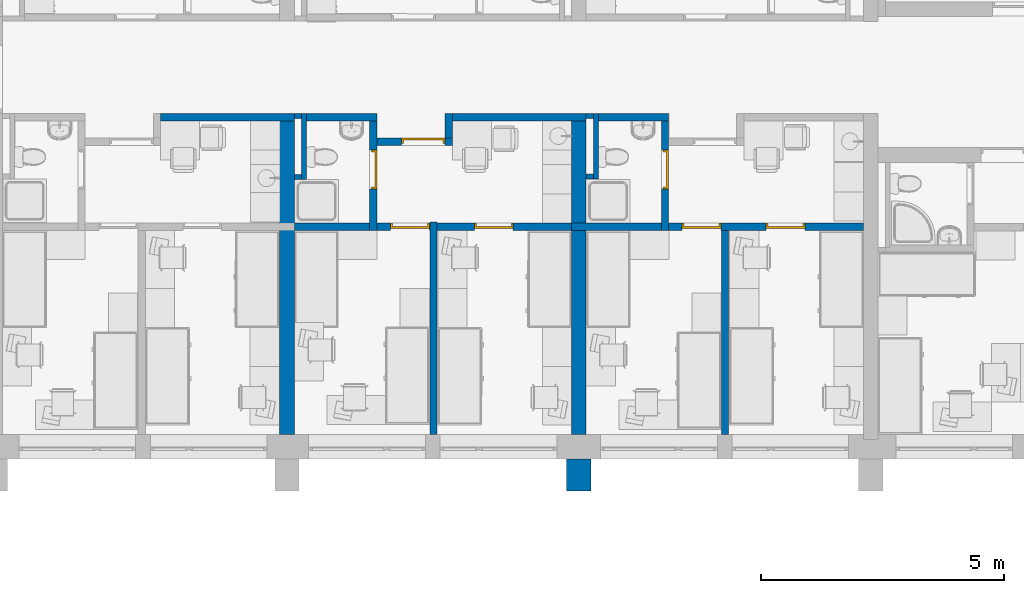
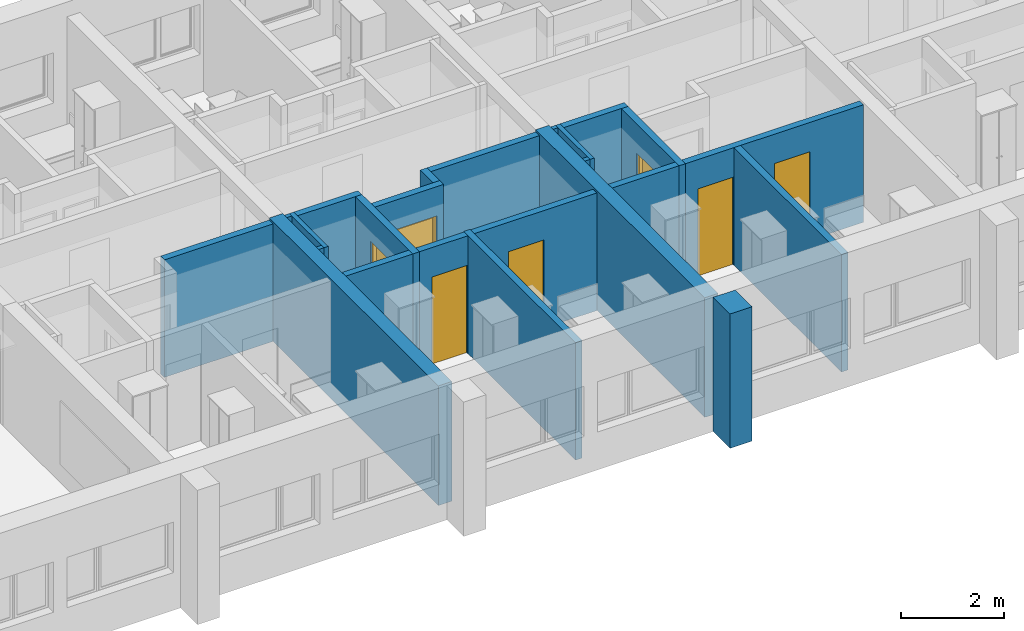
# One storey, part 15 of 165: 21 walls, 7 doors, 7 openings.
"""IFC2X3 building model written with IfcOpenShell, lengths in millimetres."""

from ifc_helpers import new_model, entity, si_unit, converted_unit, money_unit, direction, frame, origin_with_axes, place, context, subcontext, project, spatial, polyline, outline, extrude, faceted_brep, source, transform, mapped, material, material_list, layer, layer_set, layer_usage, type_object, element, fill, save


model = new_model("IFC2X3")

# Units and contexts
model_context = context("Model", 3, precision=1e-05, world=origin_with_axes(), true_north=direction((0.0, 1.0)))
body_context = subcontext(model_context, "Body", "Model", "MODEL_VIEW")
ifc_project = project(units=[si_unit("LENGTHUNIT", "METRE", prefix="MILLI"), si_unit("AREAUNIT", "SQUARE_METRE"), si_unit("VOLUMEUNIT", "CUBIC_METRE"), converted_unit("PLANEANGLEUNIT", "DEGREE", entity("IfcPlaneAngleMeasure", 0.0174532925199), si_unit("PLANEANGLEUNIT", "RADIAN"), dimensions=[0, 0, 0, 0, 0, 0, 0]), si_unit("SOLIDANGLEUNIT", "STERADIAN"), money_unit("USD"), converted_unit("TIMEUNIT", "Year", entity("IfcTimeMeasure", 31556926.0), si_unit("TIMEUNIT", "SECOND"), dimensions=[0, 0, 0, 0, 0, 0, 0]), si_unit("MASSUNIT", "GRAM"), si_unit("THERMODYNAMICTEMPERATUREUNIT", "DEGREE_CELSIUS"), si_unit("LUMINOUSINTENSITYUNIT", "LUMEN")], contexts=[model_context])

# Site, building, storey
site_placement = place(None, origin_with_axes())
site = spatial("IfcSite", under=ifc_project, at=site_placement, Name="Site", CompositionType="ELEMENT")
building_placement = place(site_placement, origin_with_axes())
building = spatial("IfcBuilding", under=site, at=building_placement, Name="Building", CompositionType="ELEMENT")
storey_placement = place(building_placement, frame((0.0, 0.0, 6300.0), z_axis=(0.0, 0.0, 1.0), x_axis=(1.0, 0.0, 0.0)))
storey = spatial("IfcBuildingStorey", under=building, at=storey_placement, Name="4KORRUS", CompositionType="ELEMENT", Elevation=6300.0)

# Wall
ifc_material_1 = material(Name="Olemasolevad seinad tellis, uus viimistlus")
ifc_layer_1 = layer(ifc_material_1, 500.0, ventilated="UNKNOWN")
ifc_layer_set_1 = layer_set([ifc_layer_1], Name="Olemasolevad seinad tellis, uus viimistlus 500")
ifc_layer_usage_1 = layer_usage(ifc_layer_set_1, "AXIS2", "POSITIVE", -100.0)
wall_type_1 = type_object("IfcWallType", Name="Olemasolevad seinad tellis, uus viimistlus 500", PredefinedType="NOTDEFINED")
wall_1_placement = place(storey_placement, frame((6009.70329669, -20796.6419407, 0.0), z_axis=(0.0, 0.0, 1.0), x_axis=(0.0, 1.0, 0.0)))
element("IfcWallStandardCase", 1, at=wall_1_placement, inside=storey, type_object=wall_type_1, material=ifc_layer_usage_1, Name="VS1", ObjectType="VS1", context=body_context, shape_type="SweptSolid", body=[
    extrude(outline(polyline([(0.0, -100.0), (657.402041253, -100.0), (657.402041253, 400.0), (0.0, 400.0), (0.0, -100.0)])), origin_with_axes(), (0.0, 0.0, 1.0), 3200.0),
])

# Wall, opening, door
ifc_material_2 = material(Name="UmbKipsplaat")
ifc_layer_2 = layer(ifc_material_2, 13.0, ventilated="UNKNOWN")
ifc_layer_3 = layer(ifc_material_2, 13.0, ventilated="UNKNOWN")
ifc_material_3 = material(Name="SOOJUSTUS MINERAALVILL")
ifc_layer_4 = layer(ifc_material_3, 98.0, ventilated="UNKNOWN")
ifc_layer_5 = layer(ifc_material_2, 13.0, ventilated="UNKNOWN")
ifc_layer_6 = layer(ifc_material_2, 13.0, ventilated="UNKNOWN")
ifc_layer_set_2 = layer_set([ifc_layer_2, ifc_layer_3, ifc_layer_4, ifc_layer_5, ifc_layer_6], Name="kipssein150")
ifc_layer_usage_2 = layer_usage(ifc_layer_set_2, "AXIS2", "POSITIVE", -150.0)
wall_type_2 = type_object("IfcWallType", Name="kipssein150 150", PredefinedType="NOTDEFINED")
wall_2_placement = place(storey_placement, frame((1709.89667774, -13539.5830815, 0.0), z_axis=(0.0, 0.0, 1.0), x_axis=(1.0, 0.0, 0.0)))
wall_2 = element("IfcWallStandardCase", 2, at=wall_2_placement, inside=storey, type_object=wall_type_2, material=ifc_layer_usage_2, Name="SS1", ObjectType="SS1", context=body_context, shape_type="SweptSolid", body=[
    extrude(outline(polyline([(0.0, -150.0), (1549.66067938, -150.0), (1549.66067938, 0.0), (0.0, 0.0), (0.0, -150.0)])), origin_with_axes(), (0.0, 0.0, 1.0), 2800.0),
])
opening_1_placement = place(wall_2_placement, frame((949.660679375, 0.0, 0.0), z_axis=(0.0, 0.0, 1.0), x_axis=(1.0, 0.0, 0.0)))
opening_1 = element("IfcOpeningElement", 3, at=opening_1_placement, cuts=wall_2, Name="SU2-5", context=body_context, shape_type="SweptSolid", body=[
    extrude(outline(polyline([(-450.0, -2100.0), (450.0, -2100.0), (450.0, 0.0), (-450.0, 0.0), (-450.0, -2100.0)])), frame((0.0, -150.0, 0.0), z_axis=(0.0, 1.0, 0.0), x_axis=(1.0, 0.0, 0.0)), (0.0, 0.0, 1.0), 450.0),
])
ifc_material_4 = material(Name="Background")
ifc_material_list = material_list([ifc_material_4])
door_style_1 = type_object("IfcDoorStyle", Name="Door 19", ConstructionType="NOTDEFINED", OperationType="SINGLE_SWING_RIGHT", ParameterTakesPrecedence=False, Sizeable=False)
shared_shape_1 = source(origin_with_axes(), body_context, "Body", "Brep", [
    faceted_brep([(-410.0, -40.0, 0.0), (-410.0, -40.0, 2060.0), (-410.0, -115.0, 2060.0), (-410.0, -115.0, 0.0), (-422.0, -40.0, 2060.0), (-422.0, -40.0, 0.0), (-422.0, 0.0, 2060.0), (-450.0, 0.0, 2060.0), (-450.0, -115.0, 2060.0), (-450.0, -115.0, 0.0), (-450.0, 0.0, 0.0), (-422.0, 0.0, 0.0)], [[[0, 1, 2, 3]], [[4, 1, 0, 5]], [[4, 6, 7, 8, 2, 1]], [[2, 8, 9, 3]], [[5, 0, 3, 9, 10, 11]], [[6, 4, 5, 11]], [[6, 11, 10, 7]], [[9, 8, 7, 10]]]),
    faceted_brep([(422.0, -40.0, 2060.0), (410.0, -40.0, 2060.0), (410.0, -115.0, 2060.0), (450.0, -115.0, 2060.0), (450.0, 0.0, 2060.0), (422.0, 0.0, 2060.0), (422.0, -40.0, 0.0), (410.0, -40.0, 0.0), (410.0, -115.0, 0.0), (450.0, -115.0, 0.0), (450.0, 0.0, 0.0), (422.0, 0.0, 0.0)], [[[0, 1, 2, 3, 4, 5]], [[1, 0, 6, 7]], [[1, 7, 8, 2]], [[2, 8, 9, 3]], [[3, 9, 10, 4]], [[11, 5, 4, 10]], [[0, 5, 11, 6]], [[6, 11, 10, 9, 8, 7]]]),
    faceted_brep([(-422.0, 0.0, 2072.0), (-422.0, 0.0, 2060.0), (-450.0, 0.0, 2060.0), (-450.0, 0.0, 2100.0), (450.0, 0.0, 2100.0), (450.0, 0.0, 2060.0), (422.0, 0.0, 2060.0), (422.0, 0.0, 2072.0), (-422.0, -40.0, 2072.0), (-422.0, -40.0, 2060.0), (-410.0, -40.0, 2060.0), (-410.0, -115.0, 2060.0), (-450.0, -115.0, 2060.0), (-450.0, -115.0, 2100.0), (450.0, -115.0, 2100.0), (450.0, -115.0, 2060.0), (422.0, -40.0, 2060.0), (410.0, -115.0, 2060.0), (410.0, -40.0, 2060.0), (422.0, -40.0, 2072.0)], [[[0, 1, 2, 3, 4, 5, 6, 7]], [[1, 0, 8, 9]], [[9, 10, 11, 12, 2, 1]], [[12, 13, 3, 2]], [[13, 14, 4, 3]], [[14, 15, 5, 4]], [[16, 6, 5, 15, 17, 18]], [[7, 6, 16, 19]], [[0, 7, 19, 8]], [[16, 18, 10, 9, 8, 19]], [[10, 18, 17, 11]], [[15, 14, 13, 12, 11, 17]]]),
    faceted_brep([(422.0, 0.0, 0.0), (422.0, -40.0, 0.0), (-422.0, -40.0, 0.0), (-422.0, 0.0, 0.0), (422.0, 0.0, 2072.0), (422.0, -40.0, 2072.0), (-422.0, -40.0, 2072.0), (-422.0, 0.0, 2072.0)], [[[0, 1, 2, 3]], [[4, 5, 1, 0]], [[1, 5, 6, 2]], [[3, 2, 6, 7]], [[0, 3, 7, 4]], [[7, 6, 5, 4]]]),
])
door_1_placement = place(opening_1_placement, frame((-450.0, 0.0, 0.0), z_axis=(0.0, 0.0, 1.0), x_axis=(1.0, 0.0, 0.0)))
door_1 = element("IfcDoor", 4, at=door_1_placement, inside=storey, type_object=door_style_1, material=ifc_material_list, Name="SU2-5", ObjectType="Korteri välisuks", OverallHeight=2100.0, OverallWidth=900.0, context=body_context, shape_type="MappedRepresentation", body=[
    mapped(shared_shape_1, transform((450.0, 0.0, 0.0))),
])
fill(opening_1, door_1)

# Wall
ifc_layer_usage_3 = layer_usage(ifc_layer_set_2, "AXIS2", "POSITIVE", -150.0)
wall_3_placement = place(storey_placement, frame((-2740.44264288, -13039.5012458, 0.0), z_axis=(0.0, 0.0, 1.0), x_axis=(1.0, 0.0, 0.0)))
element("IfcWallStandardCase", 5, at=wall_3_placement, inside=storey, type_object=wall_type_2, material=ifc_layer_usage_3, Name="SS1", ObjectType="SS1", context=body_context, shape_type="SweptSolid", body=[
    extrude(outline(polyline([(0.0, -150.0), (2750.14593957, -150.0), (2750.14593957, 0.0), (0.0, 0.0), (0.0, -150.0)])), origin_with_axes(), (0.0, 0.0, 1.0), 2800.0),
])

# Wall, opening, door
ifc_layer_usage_4 = layer_usage(ifc_layer_set_2, "AXIS2", "POSITIVE", 0.0)
wall_4_placement = place(storey_placement, frame((7703.60828238, -15439.2398994, 0.0), z_axis=(0.0, 0.0, 1.0), x_axis=(0.0, 1.0, 0.0)))
wall_4 = element("IfcWallStandardCase", 6, at=wall_4_placement, inside=storey, type_object=wall_type_2, material=ifc_layer_usage_4, Name="SS1", ObjectType="SS1", context=body_context, shape_type="SweptSolid", body=[
    extrude(outline(polyline([(0.0, 0.0), (2399.86932682, 0.0), (2399.86932682, 150.0), (0.0, 150.0), (0.0, 0.0)])), origin_with_axes(), (0.0, 0.0, 1.0), 2800.0),
])
opening_2_placement = place(wall_4_placement, frame((1249.78749111, 0.0, 0.0), z_axis=(0.0, 0.0, 1.0), x_axis=(1.0, 0.0, 0.0)))
opening_2 = element("IfcOpeningElement", 7, at=opening_2_placement, cuts=wall_4, Name="SU3-3", context=body_context, shape_type="SweptSolid", body=[
    extrude(outline(polyline([(-400.0, -2100.0), (400.0, -2100.0), (400.0, 0.0), (-400.0, 0.0), (-400.0, -2100.0)])), frame((0.0, 150.0, 0.0), z_axis=(0.0, 1.0, 0.0), x_axis=(1.0, 0.0, 0.0)), (0.0, 0.0, -1.0), 450.0),
])
door_style_2 = type_object("IfcDoorStyle", Name="Door 19", ConstructionType="NOTDEFINED", OperationType="SINGLE_SWING_LEFT", ParameterTakesPrecedence=False, Sizeable=False)
shared_shape_2 = source(origin_with_axes(), body_context, "Body", "Brep", [
    faceted_brep([(360.0, -40.0, 0.0), (360.0, -115.0, 0.0), (360.0, -115.0, 2060.0), (360.0, -40.0, 2060.0), (372.0, -40.0, 0.0), (372.0, 0.0, 0.0), (400.0, 0.0, 0.0), (400.0, -115.0, 0.0), (400.0, -115.0, 2060.0), (372.0, -40.0, 2060.0), (400.0, 0.0, 2060.0), (372.0, 0.0, 2060.0)], [[[0, 1, 2, 3]], [[4, 5, 6, 7, 1, 0]], [[2, 1, 7, 8]], [[9, 3, 2, 8, 10, 11]], [[9, 4, 0, 3]], [[11, 5, 4, 9]], [[11, 10, 6, 5]], [[7, 6, 10, 8]]]),
    faceted_brep([(-372.0, -40.0, 2060.0), (-372.0, 0.0, 2060.0), (-400.0, 0.0, 2060.0), (-400.0, -115.0, 2060.0), (-360.0, -115.0, 2060.0), (-360.0, -40.0, 2060.0), (-372.0, -40.0, 0.0), (-372.0, 0.0, 0.0), (-400.0, 0.0, 0.0), (-400.0, -115.0, 0.0), (-360.0, -115.0, 0.0), (-360.0, -40.0, 0.0)], [[[0, 1, 2, 3, 4, 5]], [[0, 6, 7, 1]], [[7, 8, 2, 1]], [[3, 2, 8, 9]], [[4, 3, 9, 10]], [[5, 4, 10, 11]], [[5, 11, 6, 0]], [[6, 11, 10, 9, 8, 7]]]),
    faceted_brep([(372.0, 0.0, 2072.0), (-372.0, 0.0, 2072.0), (-372.0, 0.0, 2060.0), (-400.0, 0.0, 2060.0), (-400.0, 0.0, 2100.0), (400.0, 0.0, 2100.0), (400.0, 0.0, 2060.0), (372.0, 0.0, 2060.0), (372.0, -40.0, 2072.0), (-372.0, -40.0, 2072.0), (-372.0, -40.0, 2060.0), (-360.0, -40.0, 2060.0), (-360.0, -115.0, 2060.0), (-400.0, -115.0, 2060.0), (-400.0, -115.0, 2100.0), (400.0, -115.0, 2100.0), (400.0, -115.0, 2060.0), (372.0, -40.0, 2060.0), (360.0, -115.0, 2060.0), (360.0, -40.0, 2060.0)], [[[0, 1, 2, 3, 4, 5, 6, 7]], [[0, 8, 9, 1]], [[1, 9, 10, 2]], [[10, 11, 12, 13, 3, 2]], [[14, 4, 3, 13]], [[15, 5, 4, 14]], [[16, 6, 5, 15]], [[17, 7, 6, 16, 18, 19]], [[7, 17, 8, 0]], [[10, 9, 8, 17, 19, 11]], [[19, 18, 12, 11]], [[13, 12, 18, 16, 15, 14]]]),
    faceted_brep([(-372.0, 0.0, 0.0), (372.0, 0.0, 0.0), (372.0, -40.0, 0.0), (-372.0, -40.0, 0.0), (-372.0, 0.0, 2072.0), (372.0, 0.0, 2072.0), (372.0, -40.0, 2072.0), (-372.0, -40.0, 2072.0)], [[[0, 1, 2, 3]], [[0, 4, 5, 1]], [[1, 5, 6, 2]], [[3, 2, 6, 7]], [[4, 0, 3, 7]], [[5, 4, 7, 6]]]),
])
door_2_placement = place(opening_2_placement, frame((400.0, 0.0, 0.0), z_axis=(0.0, 0.0, 1.0), x_axis=(-1.0, 0.0, 0.0)))
door_2 = element("IfcDoor", 8, at=door_2_placement, inside=storey, type_object=door_style_2, material=ifc_material_list, Name="SU3-3", ObjectType="WC-uks", OverallHeight=2100.0, OverallWidth=800.0, context=body_context, shape_type="MappedRepresentation", body=[
    mapped(shared_shape_2, transform((400.0, 0.0, 0.0))),
])
fill(opening_2, door_2)

# Walls
ifc_layer_usage_5 = layer_usage(ifc_layer_set_2, "AXIS2", "POSITIVE", 0.0)
wall_5_placement = place(storey_placement, frame((7703.60828238, -13039.3705726, 0.0), z_axis=(0.0, 0.0, 1.0), x_axis=(-1.0, 0.0, 0.0)))
element("IfcWallStandardCase", 9, at=wall_5_placement, inside=storey, type_object=wall_type_2, material=ifc_layer_usage_5, Name="SS1", ObjectType="SS1", context=body_context, shape_type="SweptSolid", body=[
    extrude(outline(polyline([(0.0, 0.0), (1450.19338105, 0.0), (1450.19338105, 150.0), (0.0, 150.0), (0.0, 0.0)])), origin_with_axes(), (0.0, 0.0, 1.0), 2800.0),
])
ifc_layer_usage_6 = layer_usage(ifc_layer_set_2, "AXIS2", "POSITIVE", -150.0)
wall_6_placement = place(storey_placement, frame((2795.99169205, -19639.2398994, 0.0), z_axis=(0.0, 0.0, 1.0), x_axis=(0.0, 1.0, 0.0)))
element("IfcWallStandardCase", 10, at=wall_6_placement, inside=storey, type_object=wall_type_2, material=ifc_layer_usage_6, Name="SS1", ObjectType="SS1", context=body_context, shape_type="SweptSolid", body=[
    extrude(outline(polyline([(0.0, -150.0), (4370.0, -150.0), (4370.0, 0.0), (0.0, 0.0), (0.0, -150.0)])), origin_with_axes(), (0.0, 0.0, 1.0), 2800.0),
])

# Wall, openings, doors
ifc_layer_usage_7 = layer_usage(ifc_layer_set_2, "AXIS2", "POSITIVE", 0.0)
wall_7_placement = place(storey_placement, frame((5709.70329669, -15439.2398994, 0.0), z_axis=(0.0, 0.0, 1.0), x_axis=(1.0, 0.0, 0.0)))
wall_7 = element("IfcWallStandardCase", 11, at=wall_7_placement, inside=storey, type_object=wall_type_2, material=ifc_layer_usage_7, Name="SS1", ObjectType="SS1", context=body_context, shape_type="SweptSolid", body=[
    extrude(outline(polyline([(0.0, 0.0), (6000.0, 0.0), (6000.0, 150.0), (0.0, 150.0), (0.0, 0.0)])), origin_with_axes(), (0.0, 0.0, 1.0), 2800.0),
])
opening_3_placement = place(wall_7_placement, frame((4400.0, 0.0, 0.0), z_axis=(0.0, 0.0, 1.0), x_axis=(1.0, 0.0, 0.0)))
opening_3 = element("IfcOpeningElement", 12, at=opening_3_placement, cuts=wall_7, Name="SU3-4", context=body_context, shape_type="SweptSolid", body=[
    extrude(outline(polyline([(-400.0, 0.0), (400.0, 0.0), (400.0, 2100.0), (-400.0, 2100.0), (-400.0, 0.0)])), frame((0.0, -150.0, 0.0), z_axis=(0.0, 1.0, 0.0), x_axis=(-1.0, 0.0, 0.0)), (0.0, 0.0, 1.0), 450.0),
])
opening_4_placement = place(wall_7_placement, frame((2675.0, 0.0, 0.0), z_axis=(0.0, 0.0, 1.0), x_axis=(1.0, 0.0, 0.0)))
opening_4 = element("IfcOpeningElement", 13, at=opening_4_placement, cuts=wall_7, Name="SU3-5", context=body_context, shape_type="SweptSolid", body=[
    extrude(outline(polyline([(-400.0, 0.0), (400.0, 0.0), (400.0, 2100.0), (-400.0, 2100.0), (-400.0, 0.0)])), frame((0.0, -150.0, 0.0), z_axis=(0.0, -1.0, 0.0), x_axis=(1.0, 0.0, 0.0)), (0.0, 0.0, -1.0), 450.0),
])
door_style_3 = type_object("IfcDoorStyle", Name="Door 19", ConstructionType="NOTDEFINED", OperationType="SINGLE_SWING_RIGHT", ParameterTakesPrecedence=False, Sizeable=False)
shared_shape_3 = source(origin_with_axes(), body_context, "Body", "Brep", [
    faceted_brep([(-360.0, -75.0, 0.0), (-360.0, -75.0, 2060.0), (-360.0, -150.0, 2060.0), (-360.0, -150.0, 0.0), (-372.0, -75.0, 2060.0), (-372.0, -75.0, 0.0), (-372.0, -35.0, 2060.0), (-400.0, -35.0, 2060.0), (-400.0, -150.0, 2060.0), (-400.0, -150.0, 0.0), (-400.0, -35.0, 0.0), (-372.0, -35.0, 0.0)], [[[0, 1, 2, 3]], [[4, 1, 0, 5]], [[4, 6, 7, 8, 2, 1]], [[2, 8, 9, 3]], [[5, 0, 3, 9, 10, 11]], [[6, 4, 5, 11]], [[6, 11, 10, 7]], [[9, 8, 7, 10]]]),
    faceted_brep([(372.0, -75.0, 2060.0), (360.0, -75.0, 2060.0), (360.0, -150.0, 2060.0), (400.0, -150.0, 2060.0), (400.0, -35.0, 2060.0), (372.0, -35.0, 2060.0), (372.0, -75.0, 0.0), (360.0, -75.0, 0.0), (360.0, -150.0, 0.0), (400.0, -150.0, 0.0), (400.0, -35.0, 0.0), (372.0, -35.0, 0.0)], [[[0, 1, 2, 3, 4, 5]], [[1, 0, 6, 7]], [[1, 7, 8, 2]], [[2, 8, 9, 3]], [[3, 9, 10, 4]], [[11, 5, 4, 10]], [[0, 5, 11, 6]], [[6, 11, 10, 9, 8, 7]]]),
    faceted_brep([(-372.0, -35.0, 2072.0), (-372.0, -35.0, 2060.0), (-400.0, -35.0, 2060.0), (-400.0, -35.0, 2100.0), (400.0, -35.0, 2100.0), (400.0, -35.0, 2060.0), (372.0, -35.0, 2060.0), (372.0, -35.0, 2072.0), (-372.0, -75.0, 2072.0), (-372.0, -75.0, 2060.0), (-360.0, -75.0, 2060.0), (-360.0, -150.0, 2060.0), (-400.0, -150.0, 2060.0), (-400.0, -150.0, 2100.0), (400.0, -150.0, 2100.0), (400.0, -150.0, 2060.0), (372.0, -75.0, 2060.0), (360.0, -150.0, 2060.0), (360.0, -75.0, 2060.0), (372.0, -75.0, 2072.0)], [[[0, 1, 2, 3, 4, 5, 6, 7]], [[1, 0, 8, 9]], [[9, 10, 11, 12, 2, 1]], [[12, 13, 3, 2]], [[13, 14, 4, 3]], [[14, 15, 5, 4]], [[16, 6, 5, 15, 17, 18]], [[7, 6, 16, 19]], [[0, 7, 19, 8]], [[16, 18, 10, 9, 8, 19]], [[10, 18, 17, 11]], [[15, 14, 13, 12, 11, 17]]]),
    faceted_brep([(372.0, -35.0, 0.0), (372.0, -75.0, 0.0), (-372.0, -75.0, 0.0), (-372.0, -35.0, 0.0), (372.0, -35.0, 2072.0), (372.0, -75.0, 2072.0), (-372.0, -75.0, 2072.0), (-372.0, -35.0, 2072.0)], [[[0, 1, 2, 3]], [[4, 5, 1, 0]], [[1, 5, 6, 2]], [[3, 2, 6, 7]], [[0, 3, 7, 4]], [[7, 6, 5, 4]]]),
])
door_3_placement = place(opening_3_placement, frame((400.0, 0.0, 0.0), z_axis=(0.0, 0.0, 1.0), x_axis=(-1.0, 0.0, 0.0)))
door_3 = element("IfcDoor", 14, at=door_3_placement, inside=storey, type_object=door_style_3, material=ifc_material_list, Name="SU3-4", ObjectType="Toa uks", OverallHeight=2100.0, OverallWidth=800.0, context=body_context, shape_type="MappedRepresentation", body=[
    mapped(shared_shape_3, transform((400.0, 0.0, 0.0))),
])
fill(opening_3, door_3)
door_style_4 = type_object("IfcDoorStyle", Name="Door 19", ConstructionType="NOTDEFINED", OperationType="SINGLE_SWING_LEFT", ParameterTakesPrecedence=False, Sizeable=False)
shared_shape_4 = source(origin_with_axes(), body_context, "Body", "Brep", [
    faceted_brep([(360.0, -75.0, 0.0), (360.0, -150.0, 0.0), (360.0, -150.0, 2060.0), (360.0, -75.0, 2060.0), (372.0, -75.0, 0.0), (372.0, -35.0, 0.0), (400.0, -35.0, 0.0), (400.0, -150.0, 0.0), (400.0, -150.0, 2060.0), (372.0, -75.0, 2060.0), (400.0, -35.0, 2060.0), (372.0, -35.0, 2060.0)], [[[0, 1, 2, 3]], [[4, 5, 6, 7, 1, 0]], [[2, 1, 7, 8]], [[9, 3, 2, 8, 10, 11]], [[9, 4, 0, 3]], [[11, 5, 4, 9]], [[11, 10, 6, 5]], [[7, 6, 10, 8]]]),
    faceted_brep([(-372.0, -75.0, 2060.0), (-372.0, -35.0, 2060.0), (-400.0, -35.0, 2060.0), (-400.0, -150.0, 2060.0), (-360.0, -150.0, 2060.0), (-360.0, -75.0, 2060.0), (-372.0, -75.0, 0.0), (-372.0, -35.0, 0.0), (-400.0, -35.0, 0.0), (-400.0, -150.0, 0.0), (-360.0, -150.0, 0.0), (-360.0, -75.0, 0.0)], [[[0, 1, 2, 3, 4, 5]], [[0, 6, 7, 1]], [[7, 8, 2, 1]], [[3, 2, 8, 9]], [[4, 3, 9, 10]], [[5, 4, 10, 11]], [[5, 11, 6, 0]], [[6, 11, 10, 9, 8, 7]]]),
    faceted_brep([(372.0, -35.0, 2072.0), (-372.0, -35.0, 2072.0), (-372.0, -35.0, 2060.0), (-400.0, -35.0, 2060.0), (-400.0, -35.0, 2100.0), (400.0, -35.0, 2100.0), (400.0, -35.0, 2060.0), (372.0, -35.0, 2060.0), (372.0, -75.0, 2072.0), (-372.0, -75.0, 2072.0), (-372.0, -75.0, 2060.0), (-360.0, -75.0, 2060.0), (-360.0, -150.0, 2060.0), (-400.0, -150.0, 2060.0), (-400.0, -150.0, 2100.0), (400.0, -150.0, 2100.0), (400.0, -150.0, 2060.0), (372.0, -75.0, 2060.0), (360.0, -150.0, 2060.0), (360.0, -75.0, 2060.0)], [[[0, 1, 2, 3, 4, 5, 6, 7]], [[0, 8, 9, 1]], [[1, 9, 10, 2]], [[10, 11, 12, 13, 3, 2]], [[14, 4, 3, 13]], [[15, 5, 4, 14]], [[16, 6, 5, 15]], [[17, 7, 6, 16, 18, 19]], [[7, 17, 8, 0]], [[10, 9, 8, 17, 19, 11]], [[19, 18, 12, 11]], [[13, 12, 18, 16, 15, 14]]]),
    faceted_brep([(-372.0, -35.0, 0.0), (372.0, -35.0, 0.0), (372.0, -75.0, 0.0), (-372.0, -75.0, 0.0), (-372.0, -35.0, 2072.0), (372.0, -35.0, 2072.0), (372.0, -75.0, 2072.0), (-372.0, -75.0, 2072.0)], [[[0, 1, 2, 3]], [[0, 4, 5, 1]], [[1, 5, 6, 2]], [[3, 2, 6, 7]], [[4, 0, 3, 7]], [[5, 4, 7, 6]]]),
])
door_4_placement = place(opening_4_placement, frame((400.0, 0.0, 0.0), z_axis=(0.0, 0.0, 1.0), x_axis=(-1.0, 0.0, 0.0)))
door_4 = element("IfcDoor", 15, at=door_4_placement, inside=storey, type_object=door_style_4, material=ifc_material_list, Name="SU3-5", ObjectType="Toa uks", OverallHeight=2100.0, OverallWidth=800.0, context=body_context, shape_type="MappedRepresentation", body=[
    mapped(shared_shape_4, transform((400.0, 0.0, 0.0))),
])
fill(opening_4, door_4)

# Wall
ifc_layer_usage_8 = layer_usage(ifc_layer_set_2, "AXIS2", "POSITIVE", -150.0)
wall_8_placement = place(storey_placement, frame((3259.55735712, -13039.3705726, 0.0), z_axis=(0.0, 0.0, 1.0), x_axis=(1.0, 0.0, 0.0)))
element("IfcWallStandardCase", 16, at=wall_8_placement, inside=storey, type_object=wall_type_2, material=ifc_layer_usage_8, Name="SS1", ObjectType="SS1", context=body_context, shape_type="SweptSolid", body=[
    extrude(outline(polyline([(0.0, -150.0), (2750.14593957, -150.0), (2750.14593957, 0.0), (0.0, 0.0), (0.0, -150.0)])), origin_with_axes(), (0.0, 0.0, 1.0), 2800.0),
])

# Wall, openings, doors
ifc_layer_usage_9 = layer_usage(ifc_layer_set_2, "AXIS2", "POSITIVE", 0.0)
wall_9_placement = place(storey_placement, frame((15.9916920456, -15439.2398994, 0.0), z_axis=(0.0, 0.0, 1.0), x_axis=(1.0, 0.0, 0.0)))
wall_9 = element("IfcWallStandardCase", 17, at=wall_9_placement, inside=storey, type_object=wall_type_2, material=ifc_layer_usage_9, Name="SS1", ObjectType="SS1", context=body_context, shape_type="SweptSolid", body=[
    extrude(outline(polyline([(0.0, 0.0), (5687.42320928, 0.0), (5687.42320928, 150.0), (0.0, 150.0), (0.0, 0.0)])), origin_with_axes(), (0.0, 0.0, 1.0), 2800.0),
])
opening_5_placement = place(wall_9_placement, frame((4093.71160464, 0.0, 0.0), z_axis=(0.0, 0.0, 1.0), x_axis=(1.0, 0.0, 0.0)))
opening_5 = element("IfcOpeningElement", 18, at=opening_5_placement, cuts=wall_9, Name="SU3-4", context=body_context, shape_type="SweptSolid", body=[
    extrude(outline(polyline([(-400.0, 0.0), (400.0, 0.0), (400.0, 2100.0), (-400.0, 2100.0), (-400.0, 0.0)])), frame((0.0, -150.0, 0.0), z_axis=(0.0, 1.0, 0.0), x_axis=(-1.0, 0.0, 0.0)), (0.0, 0.0, 1.0), 450.0),
])
opening_6_placement = place(wall_9_placement, frame((2368.71160464, 0.0, 0.0), z_axis=(0.0, 0.0, 1.0), x_axis=(1.0, 0.0, 0.0)))
opening_6 = element("IfcOpeningElement", 19, at=opening_6_placement, cuts=wall_9, Name="SU3-5", context=body_context, shape_type="SweptSolid", body=[
    extrude(outline(polyline([(-400.0, 0.0), (400.0, 0.0), (400.0, 2100.0), (-400.0, 2100.0), (-400.0, 0.0)])), frame((0.0, -150.0, 0.0), z_axis=(0.0, -1.0, 0.0), x_axis=(1.0, 0.0, 0.0)), (0.0, 0.0, -1.0), 450.0),
])
door_5_placement = place(opening_5_placement, frame((400.0, 0.0, 0.0), z_axis=(0.0, 0.0, 1.0), x_axis=(-1.0, 0.0, 0.0)))
door_5 = element("IfcDoor", 20, at=door_5_placement, inside=storey, type_object=door_style_3, material=ifc_material_list, Name="SU3-4", ObjectType="Toa uks", OverallHeight=2100.0, OverallWidth=800.0, context=body_context, shape_type="MappedRepresentation", body=[
    mapped(shared_shape_3, transform((400.0, 0.0, 0.0))),
])
fill(opening_5, door_5)
door_6_placement = place(opening_6_placement, frame((400.0, 0.0, 0.0), z_axis=(0.0, 0.0, 1.0), x_axis=(-1.0, 0.0, 0.0)))
door_6 = element("IfcDoor", 21, at=door_6_placement, inside=storey, type_object=door_style_4, material=ifc_material_list, Name="SU3-5", ObjectType="Toa uks", OverallHeight=2100.0, OverallWidth=800.0, context=body_context, shape_type="MappedRepresentation", body=[
    mapped(shared_shape_4, transform((400.0, 0.0, 0.0))),
])
fill(opening_6, door_6)

# Wall, opening, door
ifc_layer_usage_10 = layer_usage(ifc_layer_set_2, "AXIS2", "POSITIVE", 0.0)
wall_10_placement = place(storey_placement, frame((1709.89667774, -15439.2398994, 0.0), z_axis=(0.0, 0.0, 1.0), x_axis=(0.0, 1.0, 0.0)))
wall_10 = element("IfcWallStandardCase", 22, at=wall_10_placement, inside=storey, type_object=wall_type_2, material=ifc_layer_usage_10, Name="SS1", ObjectType="SS1", context=body_context, shape_type="SweptSolid", body=[
    extrude(outline(polyline([(0.0, 0.0), (2399.73865363, 0.0), (2399.73865363, 150.0), (0.0, 150.0), (0.0, 0.0)])), origin_with_axes(), (0.0, 0.0, 1.0), 2800.0),
])
opening_7_placement = place(wall_10_placement, frame((1249.65681793, 0.0, 0.0), z_axis=(0.0, 0.0, 1.0), x_axis=(1.0, 0.0, 0.0)))
opening_7 = element("IfcOpeningElement", 23, at=opening_7_placement, cuts=wall_10, Name="SU3-3", context=body_context, shape_type="SweptSolid", body=[
    extrude(outline(polyline([(-400.0, -2100.0), (400.0, -2100.0), (400.0, 0.0), (-400.0, 0.0), (-400.0, -2100.0)])), frame((0.0, 150.0, 0.0), z_axis=(0.0, 1.0, 0.0), x_axis=(1.0, 0.0, 0.0)), (0.0, 0.0, -1.0), 450.0),
])
door_7_placement = place(opening_7_placement, frame((400.0, 0.0, 0.0), z_axis=(0.0, 0.0, 1.0), x_axis=(-1.0, 0.0, 0.0)))
door_7 = element("IfcDoor", 24, at=door_7_placement, inside=storey, type_object=door_style_2, material=ifc_material_list, Name="SU3-3", ObjectType="WC-uks", OverallHeight=2100.0, OverallWidth=800.0, context=body_context, shape_type="MappedRepresentation", body=[
    mapped(shared_shape_2, transform((400.0, 0.0, 0.0))),
])
fill(opening_7, door_7)

# Walls
ifc_layer_usage_11 = layer_usage(ifc_layer_set_2, "AXIS2", "POSITIVE", 0.0)
wall_11_placement = place(storey_placement, frame((1709.89667774, -13039.5012458, 0.0), z_axis=(0.0, 0.0, 1.0), x_axis=(-1.0, 0.0, 0.0)))
element("IfcWallStandardCase", 25, at=wall_11_placement, inside=storey, type_object=wall_type_2, material=ifc_layer_usage_11, Name="SS1", ObjectType="SS1", context=body_context, shape_type="SweptSolid", body=[
    extrude(outline(polyline([(0.0, 0.0), (1450.19338105, 0.0), (1450.19338105, 150.0), (0.0, 150.0), (0.0, 0.0)])), origin_with_axes(), (0.0, 0.0, 1.0), 2800.0),
])
ifc_layer_usage_12 = layer_usage(ifc_layer_set_2, "AXIS2", "POSITIVE", -150.0)
wall_12_placement = place(storey_placement, frame((3259.55735712, -13039.3705726, 0.0), z_axis=(0.0, 0.0, 1.0), x_axis=(0.0, -1.0, 0.0)))
element("IfcWallStandardCase", 26, at=wall_12_placement, inside=storey, type_object=wall_type_2, material=ifc_layer_usage_12, Name="SS1", ObjectType="SS1", context=body_context, shape_type="SweptSolid", body=[
    extrude(outline(polyline([(0.0, -150.0), (500.212508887, -150.0), (500.212508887, 0.0), (0.0, 0.0), (0.0, -150.0)])), origin_with_axes(), (0.0, 0.0, 1.0), 2800.0),
])
ifc_layer_usage_13 = layer_usage(ifc_layer_set_2, "AXIS2", "POSITIVE", -150.0)
wall_13_placement = place(storey_placement, frame((8789.70329669, -19639.2398994, 0.0), z_axis=(0.0, 0.0, 1.0), x_axis=(0.0, 1.0, 0.0)))
element("IfcWallStandardCase", 27, at=wall_13_placement, inside=storey, type_object=wall_type_2, material=ifc_layer_usage_13, Name="SS1", ObjectType="SS1", context=body_context, shape_type="SweptSolid", body=[
    extrude(outline(polyline([(0.0, -150.0), (4200.0, -150.0), (4200.0, 0.0), (0.0, 0.0), (0.0, -150.0)])), origin_with_axes(), (0.0, 0.0, 1.0), 2800.0),
])
ifc_material_5 = material(Name="Olemasolevad seinad tellis, uus viimistlus")
ifc_layer_7 = layer(ifc_material_5, 300.0, ventilated="UNKNOWN")
ifc_layer_set_3 = layer_set([ifc_layer_7], Name="Olemasolevad seinad tellis, uus viimistlus  300")
ifc_layer_usage_14 = layer_usage(ifc_layer_set_3, "AXIS2", "POSITIVE", 0.0)
wall_type_3 = type_object("IfcWallType", Name="Olemasolevad seinad tellis, uus viimistlus  300", PredefinedType="NOTDEFINED")
wall_14_placement = place(storey_placement, frame((6009.70329669, -19639.2398994, 0.0), z_axis=(0.0, 0.0, 1.0), x_axis=(0.0, 1.0, 0.0)))
element("IfcWallStandardCase", 28, at=wall_14_placement, inside=storey, type_object=wall_type_3, material=ifc_layer_usage_14, Name="KS1", ObjectType="KS1", context=body_context, shape_type="SweptSolid", body=[
    extrude(outline(polyline([(0.0, 0.0), (6599.86932682, 0.0), (6599.86932682, 300.0), (0.0, 300.0), (0.0, 0.0)])), origin_with_axes(), (0.0, 0.0, 1.0), 2850.0),
])
ifc_layer_usage_15 = layer_usage(ifc_layer_set_3, "AXIS2", "POSITIVE", 0.0)
wall_15_placement = place(storey_placement, frame((9.70329668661, -19639.2398994, 0.0), z_axis=(0.0, 0.0, 1.0), x_axis=(0.0, 1.0, 0.0)))
element("IfcWallStandardCase", 29, at=wall_15_placement, inside=storey, type_object=wall_type_3, material=ifc_layer_usage_15, Name="KS1", ObjectType="KS1", context=body_context, shape_type="SweptSolid", body=[
    extrude(outline(polyline([(0.0, 0.0), (6599.73865363, 0.0), (6599.73865363, 300.0), (0.0, 300.0), (0.0, 0.0)])), origin_with_axes(), (0.0, 0.0, 1.0), 2850.0),
])
ifc_material_6 = material(Name="krohv")
ifc_layer_8 = layer(ifc_material_6, 2.0, ventilated="UNKNOWN")
ifc_layer_9 = layer(ifc_material_6, 10.0, ventilated="UNKNOWN")
ifc_material_7 = material(Name="Kergplokk")
ifc_layer_10 = layer(ifc_material_7, 76.0, ventilated="UNKNOWN")
ifc_layer_11 = layer(ifc_material_6, 10.0, ventilated="UNKNOWN")
ifc_layer_12 = layer(ifc_material_6, 2.0, ventilated="UNKNOWN")
ifc_layer_set_4 = layer_set([ifc_layer_8, ifc_layer_9, ifc_layer_10, ifc_layer_11, ifc_layer_12], Name="Kergplokk Bauroc 100")
ifc_layer_usage_16 = layer_usage(ifc_layer_set_4, "AXIS2", "POSITIVE", 0.0)
wall_type_4 = type_object("IfcWallType", Name="Kergplokk Bauroc 100 100", PredefinedType="NOTDEFINED")
wall_16_placement = place(storey_placement, frame((6009.70329669, -14380.4716262, 0.0), z_axis=(0.0, 0.0, 1.0), x_axis=(1.0, 0.0, 0.0)))
element("IfcWallStandardCase", 30, at=wall_16_placement, inside=storey, type_object=wall_type_4, material=ifc_layer_usage_16, Name="SS2", ObjectType="sahtisein", context=body_context, shape_type="SweptSolid", body=[
    extrude(outline(polyline([(0.0, 0.0), (149.711604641, 0.0), (149.711604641, 100.0), (0.0, 100.0), (0.0, 0.0)])), origin_with_axes(), (0.0, 0.0, 1.0), 2800.0),
])
ifc_layer_usage_17 = layer_usage(ifc_layer_set_4, "AXIS2", "POSITIVE", 0.0)
wall_17_placement = place(storey_placement, frame((159.703296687, -13039.5012458, 0.0), z_axis=(0.0, 0.0, 1.0), x_axis=(-1.0, 0.0, 0.0)))
element("IfcWallStandardCase", 31, at=wall_17_placement, inside=storey, type_object=wall_type_4, material=ifc_layer_usage_17, Name="SS2", ObjectType="sahtisein", context=body_context, shape_type="SweptSolid", body=[
    extrude(outline(polyline([(0.0, 0.0), (150.0, 0.0), (150.0, 100.0), (0.0, 100.0), (0.0, 0.0)])), origin_with_axes(), (0.0, 0.0, 1.0), 2800.0),
])
ifc_layer_usage_18 = layer_usage(ifc_layer_set_4, "AXIS2", "POSITIVE", 0.0)
wall_18_placement = place(storey_placement, frame((6159.41490133, -13039.3705726, 0.0), z_axis=(0.0, 0.0, 1.0), x_axis=(-1.0, 0.0, 0.0)))
element("IfcWallStandardCase", 32, at=wall_18_placement, inside=storey, type_object=wall_type_4, material=ifc_layer_usage_18, Name="SS2", ObjectType="sahtisein", context=body_context, shape_type="SweptSolid", body=[
    extrude(outline(polyline([(0.0, 0.0), (149.711604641, 0.0), (149.711604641, 100.0), (0.0, 100.0), (0.0, 0.0)])), origin_with_axes(), (0.0, 0.0, 1.0), 2800.0),
])
ifc_layer_usage_19 = layer_usage(ifc_layer_set_4, "AXIS2", "POSITIVE", 0.0)
wall_19_placement = place(storey_placement, frame((9.70329668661, -14389.2398994, 0.0), z_axis=(0.0, 0.0, 1.0), x_axis=(1.0, 0.0, 0.0)))
element("IfcWallStandardCase", 33, at=wall_19_placement, inside=storey, type_object=wall_type_4, material=ifc_layer_usage_19, Name="SS2", ObjectType="sahtisein", context=body_context, shape_type="SweptSolid", body=[
    extrude(outline(polyline([(0.0, 0.0), (150.0, 0.0), (150.0, 100.0), (0.0, 100.0), (0.0, 0.0)])), origin_with_axes(), (0.0, 0.0, 1.0), 2800.0),
])
ifc_layer_usage_20 = layer_usage(ifc_layer_set_4, "AXIS2", "POSITIVE", 0.0)
wall_20_placement = place(storey_placement, frame((159.703296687, -13039.5012458, 0.0), z_axis=(0.0, 0.0, 1.0), x_axis=(0.0, -1.0, 0.0)))
element("IfcWallStandardCase", 34, at=wall_20_placement, inside=storey, type_object=wall_type_4, material=ifc_layer_usage_20, Name="SS2", ObjectType="sahtisein", context=body_context, shape_type="SweptSolid", body=[
    extrude(outline(polyline([(0.0, 0.0), (1349.73865363, 0.0), (1349.73865363, 100.0), (0.0, 100.0), (0.0, 0.0)])), origin_with_axes(), (0.0, 0.0, 1.0), 2800.0),
])
ifc_layer_usage_21 = layer_usage(ifc_layer_set_4, "AXIS2", "POSITIVE", 0.0)
wall_21_placement = place(storey_placement, frame((6159.41490133, -13039.3705726, 0.0), z_axis=(0.0, 0.0, 1.0), x_axis=(0.0, -1.0, 0.0)))
element("IfcWallStandardCase", 35, at=wall_21_placement, inside=storey, type_object=wall_type_4, material=ifc_layer_usage_21, Name="SS2", ObjectType="sahtisein", context=body_context, shape_type="SweptSolid", body=[
    extrude(outline(polyline([(0.0, 0.0), (1341.10105359, 0.0), (1341.10105359, 100.0), (0.0, 100.0), (0.0, 0.0)])), origin_with_axes(), (0.0, 0.0, 1.0), 2800.0),
])

save(model, "model.ifc")
